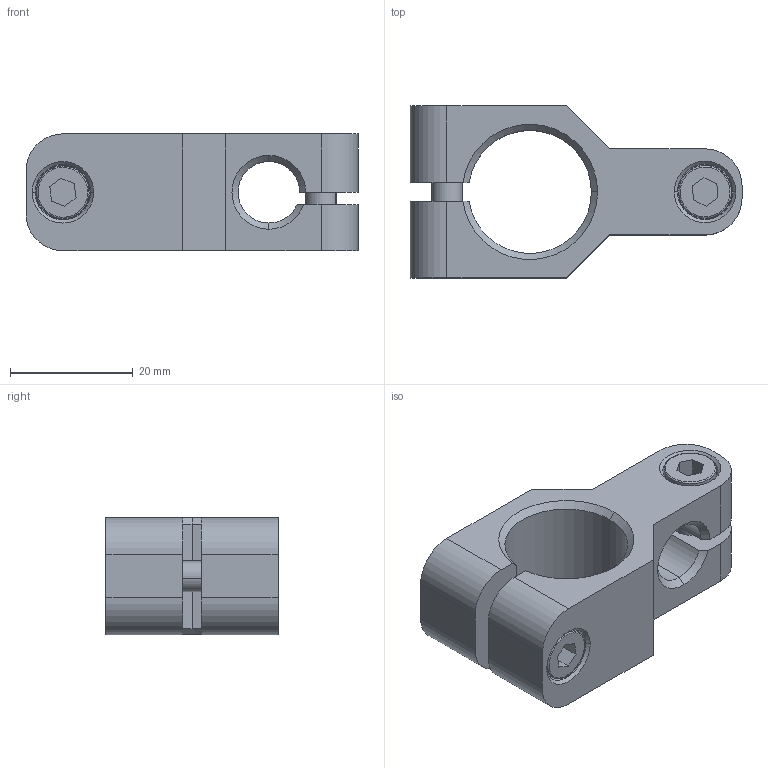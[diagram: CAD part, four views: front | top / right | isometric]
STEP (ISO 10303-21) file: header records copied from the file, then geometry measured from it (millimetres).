
FILE_DESCRIPTION (( 'STEP AP214' ), '1' );
FILE_NAME ('SCD-2010.STEP', '2019-11-07T06:13:19', ( '微软用户' ), ( '微软中国' ), 'SwSTEP 2.0', 'SolidWorks 2016', '' );
FILE_SCHEMA (( 'AUTOMOTIVE_DESIGN' ));
Length unit declared in the file: millimetre
Products named in the file (1): SCD-2010
Bounding box: 54 x 28 x 19.1 mm (x, y, z)
Volume: 13049.4 mm3; surface area: 7906 mm2
Topology: 5 solids, 5 shells, 484 faces, 1389 edges, 917 vertices
Faces by surface type: plane 422, cylinder 41, cone 17, bspline 4
Entity records: 21586 total; most frequent: CARTESIAN_POINT 3079, DIRECTION 2810, ORIENTED_EDGE 2778, EDGE_CURVE 1389, AXIS2_PLACEMENT_3D 954, VERTEX_POINT 917, LINE 902, VECTOR 902
